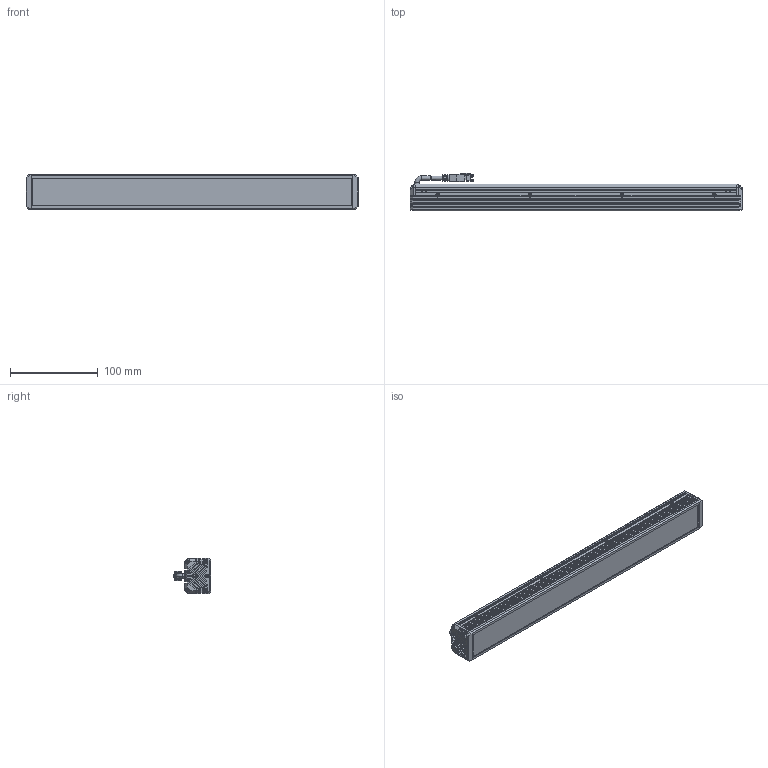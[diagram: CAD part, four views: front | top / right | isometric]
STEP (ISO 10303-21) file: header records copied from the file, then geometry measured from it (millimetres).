
FILE_DESCRIPTION((''),'2;1');
FILE_NAME('MV-LLDS-H-400-40-W-PL_ASM','2024-04-08T14:08:19',('huguozhe'),(''),'CREO PARAMETRIC BY PTC INC, 2020044','CREO PARAMETRIC BY PTC INC, 2020044','');
FILE_SCHEMA(('AUTOMOTIVE_DESIGN { 1 0 10303 214 1 1 1 1 }'));
Length unit declared in the file: millimetre
Products named in the file (15): DE-15-001192; DE-15-001191_ASM; DE-15-000498; DE-15-000497_ASM; DE-12-002350; TIP-M3X4-4_5X5-SO-ET-07061033; DE-12-002350_ASM; DE-12-001597; SC-KM2X6-BNI-GB819; XIANLAN_HEAD; CABLE_HEAD; CABLE_HEAD_ASM_ASM; 190100852; SC-PM2X6B-JMP; MV-LLDS-H-400-40-W-PL_ASM
Assembly tree (33 placements, depth 3):
  MV-LLDS-H-400-40-W-PL_ASM
    DE-15-001191_ASM
      DE-15-001192
    DE-15-000497_ASM
      DE-15-000498
    DE-12-002350_ASM  x2
      DE-12-002350
      TIP-M3X4-4_5X5-SO-ET-07061033
    DE-12-001597
    SC-KM2X6-BNI-GB819  x4
    CABLE_HEAD_ASM_ASM
      XIANLAN_HEAD
      CABLE_HEAD
    190100852  x8
    SC-PM2X6B-JMP  x8
Bounding box: 378 x 42.65 x 40 mm (x, y, z)
Volume: 351650.3 mm3; surface area: 183080 mm2
Topology: 31 solids, 67 shells, 2821 faces, 7293 edges, 4595 vertices
Faces by surface type: plane 1364, cylinder 589, bspline 472, cone 337, torus 50, sphere 8, extrusion 1
Entity records: 48882 total; most frequent: CARTESIAN_POINT 11372, ORIENTED_EDGE 6304, DIRECTION 6081, EDGE_CURVE 3184, VERTEX_POINT 2042, VECTOR 2037, LINE 2036, AXIS2_PLACEMENT_3D 2022
